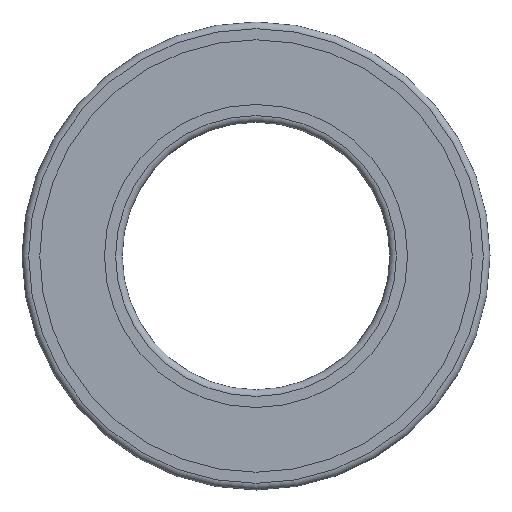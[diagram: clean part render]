
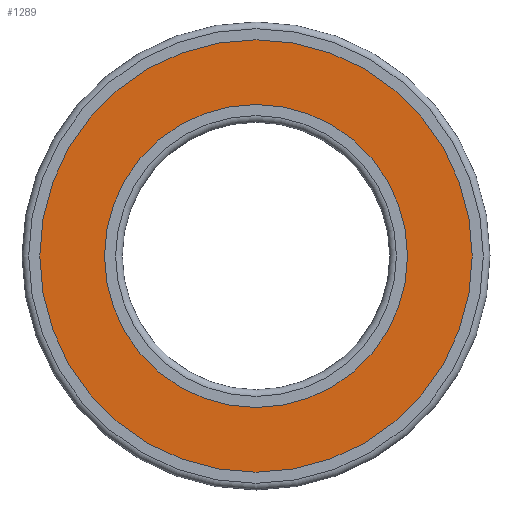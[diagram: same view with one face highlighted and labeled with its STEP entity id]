
A CAD part, left-side view. The second image highlights one B-rep face of the part: STEP entity #1289.
In plain terms, the highlighted planar face has unit normal (-1, 0, 0).
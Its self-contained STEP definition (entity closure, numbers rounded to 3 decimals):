
#222=FACE_BOUND($,#404,.T.);
#223=FACE_BOUND($,#405,.T.);
#404=EDGE_LOOP($,(#1174));
#405=EDGE_LOOP($,(#1175));
#529=CIRCLE($,#1503,6.798);
#532=CIRCLE($,#1508,9.702);
#655=VERTEX_POINT($,#3269);
#658=VERTEX_POINT($,#3277);
#828=EDGE_CURVE($,#655,#655,#529,.T.);
#831=EDGE_CURVE($,#658,#658,#532,.T.);
#1174=ORIENTED_EDGE($,*,*,#828,.T.);
#1175=ORIENTED_EDGE($,*,*,#831,.F.);
#1211=PLANE($,#1507);
#1289=ADVANCED_FACE($,(#222,#223),#1211,.T.);
#1503=AXIS2_PLACEMENT_3D($,#3270,#1933,#1934);
#1507=AXIS2_PLACEMENT_3D($,#3276,#1941,#1942);
#1508=AXIS2_PLACEMENT_3D($,#3278,#1943,#1944);
#1933=DIRECTION('center_axis',(1.,0.,0.));
#1934=DIRECTION('ref_axis',(0.,0.,-1.));
#1941=DIRECTION('center_axis',(-1.,0.,0.));
#1942=DIRECTION('ref_axis',(0.,0.,1.));
#1943=DIRECTION('center_axis',(1.,0.,0.));
#1944=DIRECTION('ref_axis',(0.,0.,-1.));
#3269=CARTESIAN_POINT('',(-2.5,6.798,0.));
#3270=CARTESIAN_POINT('Origin',(-2.5,0.,0.));
#3276=CARTESIAN_POINT('Origin',(-2.5,9.702,0.));
#3277=CARTESIAN_POINT('',(-2.5,9.702,0.));
#3278=CARTESIAN_POINT('Origin',(-2.5,0.,0.));
